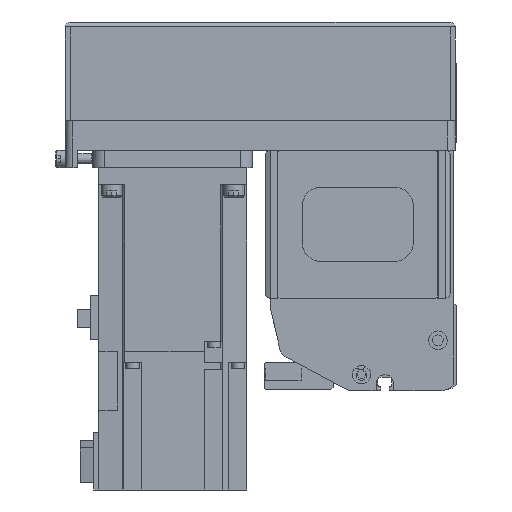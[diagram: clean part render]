
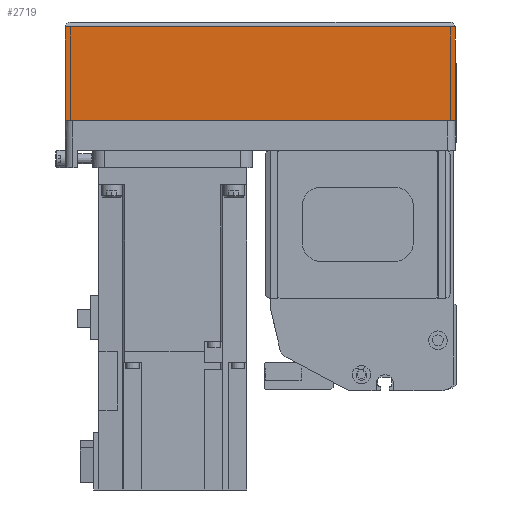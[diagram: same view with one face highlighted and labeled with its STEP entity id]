
A CAD part, left-side view. The second image highlights one B-rep face of the part: STEP entity #2719.
In plain terms, the highlighted planar face has unit normal (-1, 0, 0) as drawn and (0, 1, 0) by its records, which use the part's own axes.
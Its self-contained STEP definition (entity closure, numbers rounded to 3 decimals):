
#2719 = ADVANCED_FACE( '', ( #5939 ), #5940, .T. );
#5939 = FACE_OUTER_BOUND( '', #9556, .T. );
#5940 = PLANE( '', #9557 );
#9556 = EDGE_LOOP( '', ( #17242, #17243, #17244, #17245 ) );
#9557 = AXIS2_PLACEMENT_3D( '', #17246, #17247, #17248 );
#17242 = ORIENTED_EDGE( '', *, *, #20150, .F. );
#17243 = ORIENTED_EDGE( '', *, *, #21316, .F. );
#17244 = ORIENTED_EDGE( '', *, *, #23240, .T. );
#17245 = ORIENTED_EDGE( '', *, *, #23241, .T. );
#17246 = CARTESIAN_POINT( '', ( -158., 39., -50. ) );
#17247 = DIRECTION( '', ( 0., 1., 0. ) );
#17248 = DIRECTION( '', ( 0., 0., 1. ) );
#20150 = EDGE_CURVE( '', #23805, #23806, #23807, .T. );
#21316 = EDGE_CURVE( '', #25833, #23805, #25836, .T. );
#23240 = EDGE_CURVE( '', #25833, #28468, #28630, .T. );
#23241 = EDGE_CURVE( '', #28468, #23806, #28631, .T. );
#23805 = VERTEX_POINT( '', #29257 );
#23806 = VERTEX_POINT( '', #29258 );
#23807 = LINE( '', #29259, #29260 );
#25833 = VERTEX_POINT( '', #32768 );
#25836 = LINE( '', #32771, #32772 );
#28468 = VERTEX_POINT( '', #36780 );
#28630 = LINE( '', #36998, #36999 );
#28631 = LINE( '', #37000, #37001 );
#29257 = CARTESIAN_POINT( '', ( 0., 39., -50. ) );
#29258 = CARTESIAN_POINT( '', ( 0., 39., -12.1 ) );
#29259 = CARTESIAN_POINT( '', ( 0., 39., -50. ) );
#29260 = VECTOR( '', #37793, 1000. );
#32768 = CARTESIAN_POINT( '', ( -158., 39., -50. ) );
#32771 = CARTESIAN_POINT( '', ( -158., 39., -50. ) );
#32772 = VECTOR( '', #39263, 1000. );
#36780 = CARTESIAN_POINT( '', ( -158., 39., -12.1 ) );
#36998 = CARTESIAN_POINT( '', ( -158., 39., -50. ) );
#36999 = VECTOR( '', #41558, 1000. );
#37000 = CARTESIAN_POINT( '', ( -158., 39., -12.1 ) );
#37001 = VECTOR( '', #41559, 1000. );
#37793 = DIRECTION( '', ( 0., 0., 1. ) );
#39263 = DIRECTION( '', ( 1., 0., 0. ) );
#41558 = DIRECTION( '', ( 0., 0., 1. ) );
#41559 = DIRECTION( '', ( 1., 0., 0. ) );
